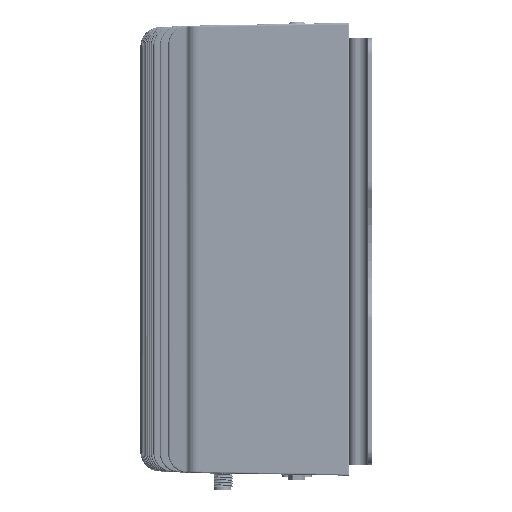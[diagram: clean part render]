
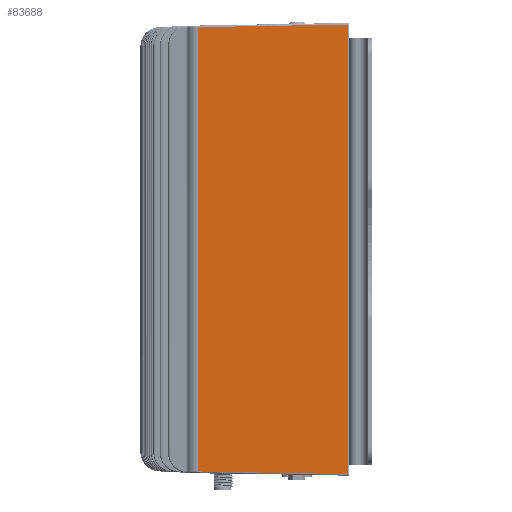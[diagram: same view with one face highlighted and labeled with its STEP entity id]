
A CAD part, left-side view. The second image highlights one B-rep face of the part: STEP entity #83688.
In plain terms, the highlighted planar face has unit normal (-0.999, 0.044, 0).
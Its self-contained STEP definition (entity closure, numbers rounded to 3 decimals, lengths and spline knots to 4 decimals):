
#5755=CARTESIAN_POINT('',(-4.0546,-0.4011,
-2.9062));
#6702=CARTESIAN_POINT('',(-3.9747,1.4279,
-2.8743));
#6713=DIRECTION('',(0.,0.,-1.));
#6714=VECTOR('',#6713,5.41);
#6715=CARTESIAN_POINT('',(-3.9747,1.4279,2.5357));
#6716=LINE('',#6715,#6714);
#6717=DIRECTION('',(0.044,0.999,0.017));
#6718=VECTOR('',#6717,1.831);
#6719=CARTESIAN_POINT('',(-4.0546,-0.4011,
-2.9062));
#6720=LINE('',#6719,#6718);
#6721=DIRECTION('',(-0.044,-0.999,0.017));
#6722=VECTOR('',#6721,1.831);
#6723=CARTESIAN_POINT('',(-3.9747,1.4279,2.5357));
#6724=LINE('',#6723,#6722);
#6725=DIRECTION('',(0.,0.,1.));
#6726=VECTOR('',#6725,5.4738);
#6727=CARTESIAN_POINT('',(-4.0546,-0.4011,
-2.9062));
#6728=LINE('',#6727,#6726);
#61379=VERTEX_POINT('',#5755);
#61380=VERTEX_POINT('',#6702);
#62738=CARTESIAN_POINT('',(-4.0546,-0.4011,
2.5676));
#62739=VERTEX_POINT('',#62738);
#62741=CARTESIAN_POINT('',(-3.9747,1.4279,
2.5357));
#62742=VERTEX_POINT('',#62741);
#83675=CARTESIAN_POINT('',(-4.0147,0.5134,
-0.1693));
#83676=DIRECTION('',(0.999,-0.044,0.));
#83677=DIRECTION('',(0.044,0.999,0.));
#83678=AXIS2_PLACEMENT_3D('',#83675,#83676,#83677);
#83679=PLANE('',#83678);
#83681=ORIENTED_EDGE('',*,*,#83680,.F.);
#83682=ORIENTED_EDGE('',*,*,#80376,.T.);
#83683=ORIENTED_EDGE('',*,*,#83670,.F.);
#83685=ORIENTED_EDGE('',*,*,#83684,.T.);
#83686=EDGE_LOOP('',(#83681,#83682,#83683,#83685));
#83687=FACE_OUTER_BOUND('',#83686,.F.);
#80376=EDGE_CURVE('',#61379,#61380,#6720,.T.);
#83670=EDGE_CURVE('',#62742,#61380,#6716,.T.);
#83680=EDGE_CURVE('',#61379,#62739,#6728,.T.);
#83684=EDGE_CURVE('',#62742,#62739,#6724,.T.);
#83688=ADVANCED_FACE('',(#83687),#83679,.F.);
